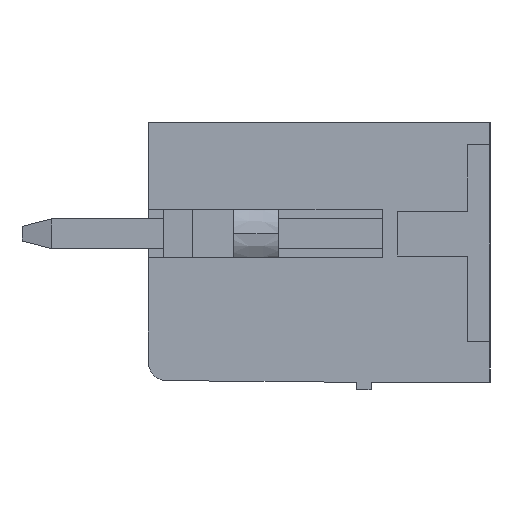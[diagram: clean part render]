
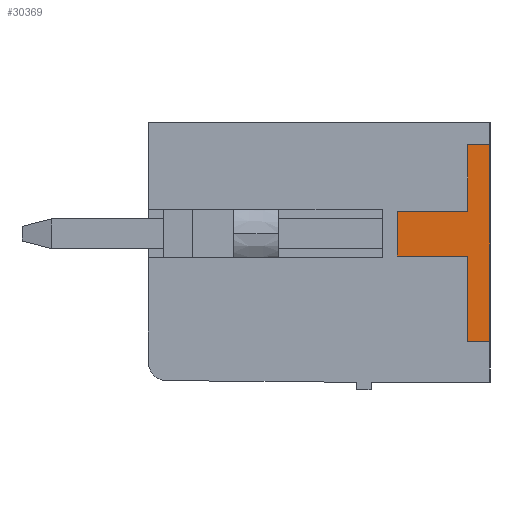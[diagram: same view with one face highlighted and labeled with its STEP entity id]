
A CAD part, left-side view. The second image highlights one B-rep face of the part: STEP entity #30369.
In plain terms, the highlighted planar face has unit normal (-1, 0, 0).
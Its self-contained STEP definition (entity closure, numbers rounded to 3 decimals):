
#156 = PLANE('',#157);
#157 = AXIS2_PLACEMENT_3D('',#158,#159,#160);
#158 = CARTESIAN_POINT('',(0.,0.,7.));
#159 = DIRECTION('',(0.,-1.,0.));
#160 = DIRECTION('',(0.,0.,-1.));
#184 = PLANE('',#185);
#185 = AXIS2_PLACEMENT_3D('',#186,#187,#188);
#186 = CARTESIAN_POINT('',(0.,0.,6.4));
#187 = DIRECTION('',(0.,0.,1.));
#188 = DIRECTION('',(0.,1.,0.));
#212 = PLANE('',#213);
#213 = AXIS2_PLACEMENT_3D('',#214,#215,#216);
#214 = CARTESIAN_POINT('',(0.,0.6,6.4));
#215 = DIRECTION('',(0.,1.,0.));
#216 = DIRECTION('',(0.,0.,-1.));
#240 = PLANE('',#241);
#241 = AXIS2_PLACEMENT_3D('',#242,#243,#244);
#242 = CARTESIAN_POINT('',(0.,0.6,4.6));
#243 = DIRECTION('',(0.,0.,1.));
#244 = DIRECTION('',(0.,1.,0.));
#268 = PLANE('',#269);
#269 = AXIS2_PLACEMENT_3D('',#270,#271,#272);
#270 = CARTESIAN_POINT('',(0.,2.5,4.6));
#271 = DIRECTION('',(0.,1.,0.));
#272 = DIRECTION('',(0.,0.,-1.));
#296 = PLANE('',#297);
#297 = AXIS2_PLACEMENT_3D('',#298,#299,#300);
#298 = CARTESIAN_POINT('',(0.,2.5,3.4));
#299 = DIRECTION('',(0.,0.,-1.));
#300 = DIRECTION('',(0.,-1.,0.));
#324 = PLANE('',#325);
#325 = AXIS2_PLACEMENT_3D('',#326,#327,#328);
#326 = CARTESIAN_POINT('',(0.,0.6,3.4));
#327 = DIRECTION('',(0.,1.,0.));
#328 = DIRECTION('',(0.,0.,-1.));
#352 = PLANE('',#353);
#353 = AXIS2_PLACEMENT_3D('',#354,#355,#356);
#354 = CARTESIAN_POINT('',(0.,0.6,1.1));
#355 = DIRECTION('',(0.,0.,-1.));
#356 = DIRECTION('',(0.,-1.,0.));
#6811 = VERTEX_POINT('',#6812);
#6812 = CARTESIAN_POINT('',(-0.2,0.,1.1));
#6833 = EDGE_CURVE('',#6811,#6834,#6836,.T.);
#6834 = VERTEX_POINT('',#6835);
#6835 = CARTESIAN_POINT('',(-0.2,0.,6.4));
#6836 = SURFACE_CURVE('',#6837,(#6841,#6848),.PCURVE_S1.);
#6837 = LINE('',#6838,#6839);
#6838 = CARTESIAN_POINT('',(-0.2,0.,1.1));
#6839 = VECTOR('',#6840,1.);
#6840 = DIRECTION('',(0.,0.,1.));
#6841 = PCURVE('',#156,#6842);
#6842 = DEFINITIONAL_REPRESENTATION('',(#6843),#6847);
#6843 = LINE('',#6844,#6845);
#6844 = CARTESIAN_POINT('',(5.9,-0.2));
#6845 = VECTOR('',#6846,1.);
#6846 = DIRECTION('',(-1.,0.));
#6847 = ( GEOMETRIC_REPRESENTATION_CONTEXT(2) 
PARAMETRIC_REPRESENTATION_CONTEXT() REPRESENTATION_CONTEXT('2D SPACE',''
  ) );
#6848 = PCURVE('',#6849,#6854);
#6849 = PLANE('',#6850);
#6850 = AXIS2_PLACEMENT_3D('',#6851,#6852,#6853);
#6851 = CARTESIAN_POINT('',(-0.2,0.,0.));
#6852 = DIRECTION('',(-1.,0.,0.));
#6853 = DIRECTION('',(0.,0.,1.));
#6854 = DEFINITIONAL_REPRESENTATION('',(#6855),#6859);
#6855 = LINE('',#6856,#6857);
#6856 = CARTESIAN_POINT('',(1.1,0.));
#6857 = VECTOR('',#6858,1.);
#6858 = DIRECTION('',(1.,0.));
#6859 = ( GEOMETRIC_REPRESENTATION_CONTEXT(2) 
PARAMETRIC_REPRESENTATION_CONTEXT() REPRESENTATION_CONTEXT('2D SPACE',''
  ) );
#30054 = VERTEX_POINT('',#30055);
#30055 = CARTESIAN_POINT('',(-0.2,0.6,1.1));
#30076 = EDGE_CURVE('',#30054,#6811,#30077,.T.);
#30077 = SURFACE_CURVE('',#30078,(#30082,#30089),.PCURVE_S1.);
#30078 = LINE('',#30079,#30080);
#30079 = CARTESIAN_POINT('',(-0.2,0.6,1.1));
#30080 = VECTOR('',#30081,1.);
#30081 = DIRECTION('',(0.,-1.,0.));
#30082 = PCURVE('',#352,#30083);
#30083 = DEFINITIONAL_REPRESENTATION('',(#30084),#30088);
#30084 = LINE('',#30085,#30086);
#30085 = CARTESIAN_POINT('',(0.,0.2));
#30086 = VECTOR('',#30087,1.);
#30087 = DIRECTION('',(1.,0.));
#30088 = ( GEOMETRIC_REPRESENTATION_CONTEXT(2) 
PARAMETRIC_REPRESENTATION_CONTEXT() REPRESENTATION_CONTEXT('2D SPACE',''
  ) );
#30089 = PCURVE('',#6849,#30090);
#30090 = DEFINITIONAL_REPRESENTATION('',(#30091),#30095);
#30091 = LINE('',#30092,#30093);
#30092 = CARTESIAN_POINT('',(1.1,0.6));
#30093 = VECTOR('',#30094,1.);
#30094 = DIRECTION('',(0.,-1.));
#30095 = ( GEOMETRIC_REPRESENTATION_CONTEXT(2) 
PARAMETRIC_REPRESENTATION_CONTEXT() REPRESENTATION_CONTEXT('2D SPACE',''
  ) );
#30103 = VERTEX_POINT('',#30104);
#30104 = CARTESIAN_POINT('',(-0.2,0.6,3.4));
#30125 = EDGE_CURVE('',#30103,#30054,#30126,.T.);
#30126 = SURFACE_CURVE('',#30127,(#30131,#30138),.PCURVE_S1.);
#30127 = LINE('',#30128,#30129);
#30128 = CARTESIAN_POINT('',(-0.2,0.6,3.4));
#30129 = VECTOR('',#30130,1.);
#30130 = DIRECTION('',(0.,0.,-1.));
#30131 = PCURVE('',#324,#30132);
#30132 = DEFINITIONAL_REPRESENTATION('',(#30133),#30137);
#30133 = LINE('',#30134,#30135);
#30134 = CARTESIAN_POINT('',(0.,0.2));
#30135 = VECTOR('',#30136,1.);
#30136 = DIRECTION('',(1.,0.));
#30137 = ( GEOMETRIC_REPRESENTATION_CONTEXT(2) 
PARAMETRIC_REPRESENTATION_CONTEXT() REPRESENTATION_CONTEXT('2D SPACE',''
  ) );
#30138 = PCURVE('',#6849,#30139);
#30139 = DEFINITIONAL_REPRESENTATION('',(#30140),#30144);
#30140 = LINE('',#30141,#30142);
#30141 = CARTESIAN_POINT('',(3.4,0.6));
#30142 = VECTOR('',#30143,1.);
#30143 = DIRECTION('',(-1.,0.));
#30144 = ( GEOMETRIC_REPRESENTATION_CONTEXT(2) 
PARAMETRIC_REPRESENTATION_CONTEXT() REPRESENTATION_CONTEXT('2D SPACE',''
  ) );
#30152 = VERTEX_POINT('',#30153);
#30153 = CARTESIAN_POINT('',(-0.2,2.5,3.4));
#30174 = EDGE_CURVE('',#30152,#30103,#30175,.T.);
#30175 = SURFACE_CURVE('',#30176,(#30180,#30187),.PCURVE_S1.);
#30176 = LINE('',#30177,#30178);
#30177 = CARTESIAN_POINT('',(-0.2,2.5,3.4));
#30178 = VECTOR('',#30179,1.);
#30179 = DIRECTION('',(0.,-1.,0.));
#30180 = PCURVE('',#296,#30181);
#30181 = DEFINITIONAL_REPRESENTATION('',(#30182),#30186);
#30182 = LINE('',#30183,#30184);
#30183 = CARTESIAN_POINT('',(0.,0.2));
#30184 = VECTOR('',#30185,1.);
#30185 = DIRECTION('',(1.,0.));
#30186 = ( GEOMETRIC_REPRESENTATION_CONTEXT(2) 
PARAMETRIC_REPRESENTATION_CONTEXT() REPRESENTATION_CONTEXT('2D SPACE',''
  ) );
#30187 = PCURVE('',#6849,#30188);
#30188 = DEFINITIONAL_REPRESENTATION('',(#30189),#30193);
#30189 = LINE('',#30190,#30191);
#30190 = CARTESIAN_POINT('',(3.4,2.5));
#30191 = VECTOR('',#30192,1.);
#30192 = DIRECTION('',(0.,-1.));
#30193 = ( GEOMETRIC_REPRESENTATION_CONTEXT(2) 
PARAMETRIC_REPRESENTATION_CONTEXT() REPRESENTATION_CONTEXT('2D SPACE',''
  ) );
#30201 = VERTEX_POINT('',#30202);
#30202 = CARTESIAN_POINT('',(-0.2,2.5,4.6));
#30223 = EDGE_CURVE('',#30201,#30152,#30224,.T.);
#30224 = SURFACE_CURVE('',#30225,(#30229,#30236),.PCURVE_S1.);
#30225 = LINE('',#30226,#30227);
#30226 = CARTESIAN_POINT('',(-0.2,2.5,4.6));
#30227 = VECTOR('',#30228,1.);
#30228 = DIRECTION('',(0.,0.,-1.));
#30229 = PCURVE('',#268,#30230);
#30230 = DEFINITIONAL_REPRESENTATION('',(#30231),#30235);
#30231 = LINE('',#30232,#30233);
#30232 = CARTESIAN_POINT('',(0.,0.2));
#30233 = VECTOR('',#30234,1.);
#30234 = DIRECTION('',(1.,0.));
#30235 = ( GEOMETRIC_REPRESENTATION_CONTEXT(2) 
PARAMETRIC_REPRESENTATION_CONTEXT() REPRESENTATION_CONTEXT('2D SPACE',''
  ) );
#30236 = PCURVE('',#6849,#30237);
#30237 = DEFINITIONAL_REPRESENTATION('',(#30238),#30242);
#30238 = LINE('',#30239,#30240);
#30239 = CARTESIAN_POINT('',(4.6,2.5));
#30240 = VECTOR('',#30241,1.);
#30241 = DIRECTION('',(-1.,0.));
#30242 = ( GEOMETRIC_REPRESENTATION_CONTEXT(2) 
PARAMETRIC_REPRESENTATION_CONTEXT() REPRESENTATION_CONTEXT('2D SPACE',''
  ) );
#30250 = VERTEX_POINT('',#30251);
#30251 = CARTESIAN_POINT('',(-0.2,0.6,4.6));
#30272 = EDGE_CURVE('',#30250,#30201,#30273,.T.);
#30273 = SURFACE_CURVE('',#30274,(#30278,#30285),.PCURVE_S1.);
#30274 = LINE('',#30275,#30276);
#30275 = CARTESIAN_POINT('',(-0.2,0.6,4.6));
#30276 = VECTOR('',#30277,1.);
#30277 = DIRECTION('',(0.,1.,0.));
#30278 = PCURVE('',#240,#30279);
#30279 = DEFINITIONAL_REPRESENTATION('',(#30280),#30284);
#30280 = LINE('',#30281,#30282);
#30281 = CARTESIAN_POINT('',(0.,0.2));
#30282 = VECTOR('',#30283,1.);
#30283 = DIRECTION('',(1.,0.));
#30284 = ( GEOMETRIC_REPRESENTATION_CONTEXT(2) 
PARAMETRIC_REPRESENTATION_CONTEXT() REPRESENTATION_CONTEXT('2D SPACE',''
  ) );
#30285 = PCURVE('',#6849,#30286);
#30286 = DEFINITIONAL_REPRESENTATION('',(#30287),#30291);
#30287 = LINE('',#30288,#30289);
#30288 = CARTESIAN_POINT('',(4.6,0.6));
#30289 = VECTOR('',#30290,1.);
#30290 = DIRECTION('',(0.,1.));
#30291 = ( GEOMETRIC_REPRESENTATION_CONTEXT(2) 
PARAMETRIC_REPRESENTATION_CONTEXT() REPRESENTATION_CONTEXT('2D SPACE',''
  ) );
#30299 = VERTEX_POINT('',#30300);
#30300 = CARTESIAN_POINT('',(-0.2,0.6,6.4));
#30321 = EDGE_CURVE('',#30299,#30250,#30322,.T.);
#30322 = SURFACE_CURVE('',#30323,(#30327,#30334),.PCURVE_S1.);
#30323 = LINE('',#30324,#30325);
#30324 = CARTESIAN_POINT('',(-0.2,0.6,6.4));
#30325 = VECTOR('',#30326,1.);
#30326 = DIRECTION('',(0.,0.,-1.));
#30327 = PCURVE('',#212,#30328);
#30328 = DEFINITIONAL_REPRESENTATION('',(#30329),#30333);
#30329 = LINE('',#30330,#30331);
#30330 = CARTESIAN_POINT('',(0.,0.2));
#30331 = VECTOR('',#30332,1.);
#30332 = DIRECTION('',(1.,0.));
#30333 = ( GEOMETRIC_REPRESENTATION_CONTEXT(2) 
PARAMETRIC_REPRESENTATION_CONTEXT() REPRESENTATION_CONTEXT('2D SPACE',''
  ) );
#30334 = PCURVE('',#6849,#30335);
#30335 = DEFINITIONAL_REPRESENTATION('',(#30336),#30340);
#30336 = LINE('',#30337,#30338);
#30337 = CARTESIAN_POINT('',(6.4,0.6));
#30338 = VECTOR('',#30339,1.);
#30339 = DIRECTION('',(-1.,0.));
#30340 = ( GEOMETRIC_REPRESENTATION_CONTEXT(2) 
PARAMETRIC_REPRESENTATION_CONTEXT() REPRESENTATION_CONTEXT('2D SPACE',''
  ) );
#30348 = EDGE_CURVE('',#6834,#30299,#30349,.T.);
#30349 = SURFACE_CURVE('',#30350,(#30354,#30361),.PCURVE_S1.);
#30350 = LINE('',#30351,#30352);
#30351 = CARTESIAN_POINT('',(-0.2,0.,6.4));
#30352 = VECTOR('',#30353,1.);
#30353 = DIRECTION('',(0.,1.,0.));
#30354 = PCURVE('',#184,#30355);
#30355 = DEFINITIONAL_REPRESENTATION('',(#30356),#30360);
#30356 = LINE('',#30357,#30358);
#30357 = CARTESIAN_POINT('',(0.,0.2));
#30358 = VECTOR('',#30359,1.);
#30359 = DIRECTION('',(1.,0.));
#30360 = ( GEOMETRIC_REPRESENTATION_CONTEXT(2) 
PARAMETRIC_REPRESENTATION_CONTEXT() REPRESENTATION_CONTEXT('2D SPACE',''
  ) );
#30361 = PCURVE('',#6849,#30362);
#30362 = DEFINITIONAL_REPRESENTATION('',(#30363),#30367);
#30363 = LINE('',#30364,#30365);
#30364 = CARTESIAN_POINT('',(6.4,0.));
#30365 = VECTOR('',#30366,1.);
#30366 = DIRECTION('',(0.,1.));
#30367 = ( GEOMETRIC_REPRESENTATION_CONTEXT(2) 
PARAMETRIC_REPRESENTATION_CONTEXT() REPRESENTATION_CONTEXT('2D SPACE',''
  ) );
#30369 = ADVANCED_FACE('',(#30370),#6849,.T.);
#30370 = FACE_BOUND('',#30371,.F.);
#30371 = EDGE_LOOP('',(#30372,#30373,#30374,#30375,#30376,#30377,#30378,
    #30379));
#30372 = ORIENTED_EDGE('',*,*,#30348,.F.);
#30373 = ORIENTED_EDGE('',*,*,#6833,.F.);
#30374 = ORIENTED_EDGE('',*,*,#30076,.F.);
#30375 = ORIENTED_EDGE('',*,*,#30125,.F.);
#30376 = ORIENTED_EDGE('',*,*,#30174,.F.);
#30377 = ORIENTED_EDGE('',*,*,#30223,.F.);
#30378 = ORIENTED_EDGE('',*,*,#30272,.F.);
#30379 = ORIENTED_EDGE('',*,*,#30321,.F.);
